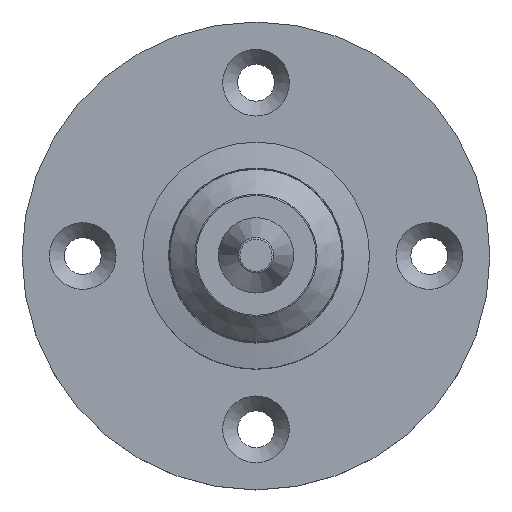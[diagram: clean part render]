
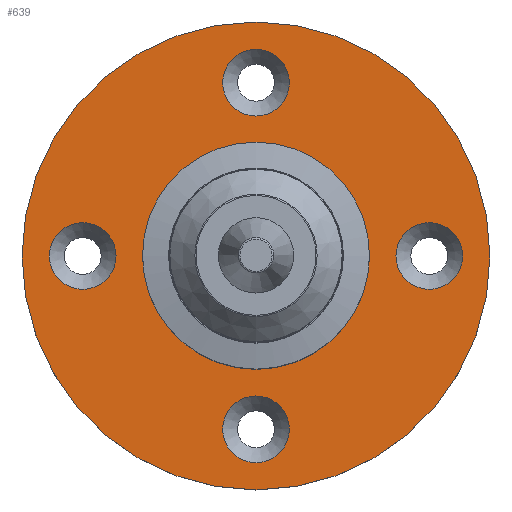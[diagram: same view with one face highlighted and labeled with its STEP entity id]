
A CAD part, top view. The second image highlights one B-rep face of the part: STEP entity #639.
In plain terms, the highlighted planar face has unit normal (0, 0, 1).
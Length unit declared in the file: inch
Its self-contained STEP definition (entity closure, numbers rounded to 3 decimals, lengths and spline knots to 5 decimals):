
#568=CARTESIAN_POINT('',(-28.83437,92.01999,-62.28557));
#569=DIRECTION('',(0.0,0.0,1.0));
#570=DIRECTION('',(-1.0,0.0,0.0));
#571=AXIS2_PLACEMENT_3D('',#568,#569,#570);
#572=PLANE('',#571);
#573=CARTESIAN_POINT('',(-27.48437,92.01999,-62.28557));
#574=VERTEX_POINT('',#573);
#575=CARTESIAN_POINT('',(-28.83437,92.01999,-62.28557));
#576=DIRECTION('',(0.0,0.0,1.0));
#577=DIRECTION('',(1.0,0.0,0.0));
#578=AXIS2_PLACEMENT_3D('',#575,#576,#577);
#579=CIRCLE('',#578,1.35);
#580=EDGE_CURVE('',#574,#574,#579,.T.);
#581=ORIENTED_EDGE('',*,*,#580,.T.);
#582=EDGE_LOOP('',(#581));
#583=FACE_OUTER_BOUND('',#582,.T.);
#584=CARTESIAN_POINT('',(-29.83437,92.21249,-62.28557));
#585=VERTEX_POINT('',#584);
#586=CARTESIAN_POINT('',(-29.83437,92.01999,-62.28557));
#587=DIRECTION('',(0.0,0.0,-1.0));
#588=DIRECTION('',(0.0,1.0,0.0));
#589=AXIS2_PLACEMENT_3D('',#586,#587,#588);
#590=CIRCLE('',#589,0.1925);
#591=EDGE_CURVE('',#585,#585,#590,.T.);
#592=ORIENTED_EDGE('',*,*,#591,.T.);
#593=EDGE_LOOP('',(#592));
#594=FACE_BOUND('',#593,.T.);
#595=CARTESIAN_POINT('',(-27.83437,91.82749,-62.28557));
#596=VERTEX_POINT('',#595);
#597=CARTESIAN_POINT('',(-27.83437,92.01999,-62.28557));
#598=DIRECTION('',(0.0,0.0,-1.0));
#599=DIRECTION('',(0.0,-1.0,0.0));
#600=AXIS2_PLACEMENT_3D('',#597,#598,#599);
#601=CIRCLE('',#600,0.1925);
#602=EDGE_CURVE('',#596,#596,#601,.T.);
#603=ORIENTED_EDGE('',*,*,#602,.T.);
#604=EDGE_LOOP('',(#603));
#605=FACE_BOUND('',#604,.T.);
#606=CARTESIAN_POINT('',(-29.02687,91.01999,-62.28557));
#607=VERTEX_POINT('',#606);
#608=CARTESIAN_POINT('',(-28.83437,91.01999,-62.28557));
#609=DIRECTION('',(0.0,0.0,-1.0));
#610=DIRECTION('',(-1.0,0.0,0.0));
#611=AXIS2_PLACEMENT_3D('',#608,#609,#610);
#612=CIRCLE('',#611,0.1925);
#613=EDGE_CURVE('',#607,#607,#612,.T.);
#614=ORIENTED_EDGE('',*,*,#613,.T.);
#615=EDGE_LOOP('',(#614));
#616=FACE_BOUND('',#615,.T.);
#617=CARTESIAN_POINT('',(-28.64187,93.01999,-62.28557));
#618=VERTEX_POINT('',#617);
#619=CARTESIAN_POINT('',(-28.83437,93.01999,-62.28557));
#620=DIRECTION('',(0.0,0.0,-1.0));
#621=DIRECTION('',(1.0,0.0,0.0));
#622=AXIS2_PLACEMENT_3D('',#619,#620,#621);
#623=CIRCLE('',#622,0.1925);
#624=EDGE_CURVE('',#618,#618,#623,.T.);
#625=ORIENTED_EDGE('',*,*,#624,.T.);
#626=EDGE_LOOP('',(#625));
#627=FACE_BOUND('',#626,.T.);
#628=CARTESIAN_POINT('',(-28.83437,91.66999,-62.28557));
#629=VERTEX_POINT('',#628);
#630=CARTESIAN_POINT('',(-28.83437,92.01999,-62.28557));
#631=DIRECTION('',(0.0,0.0,1.0));
#632=DIRECTION('',(0.0,1.0,0.0));
#633=AXIS2_PLACEMENT_3D('',#630,#631,#632);
#634=CIRCLE('',#633,0.35);
#635=EDGE_CURVE('',#629,#629,#634,.T.);
#636=ORIENTED_EDGE('',*,*,#635,.F.);
#637=EDGE_LOOP('',(#636));
#638=FACE_BOUND('',#637,.T.);
#639=ADVANCED_FACE('',(#583,#594,#605,#616,#627,#638),#572,.T.);
